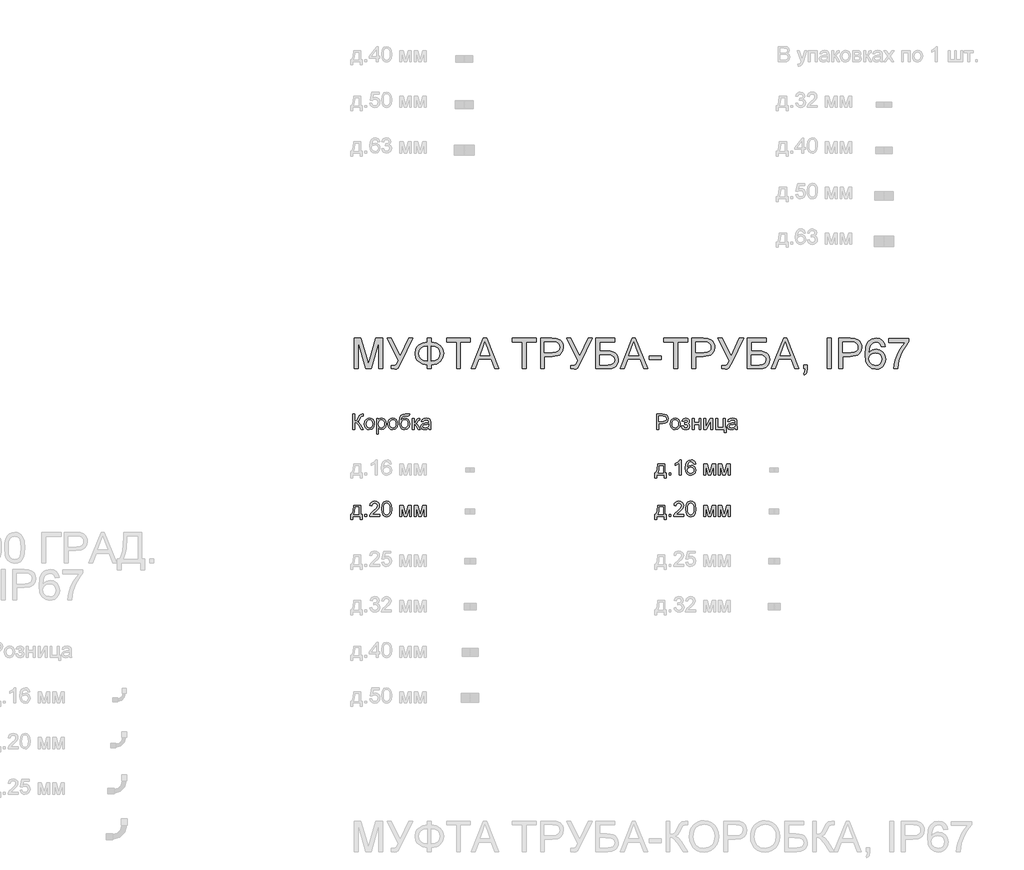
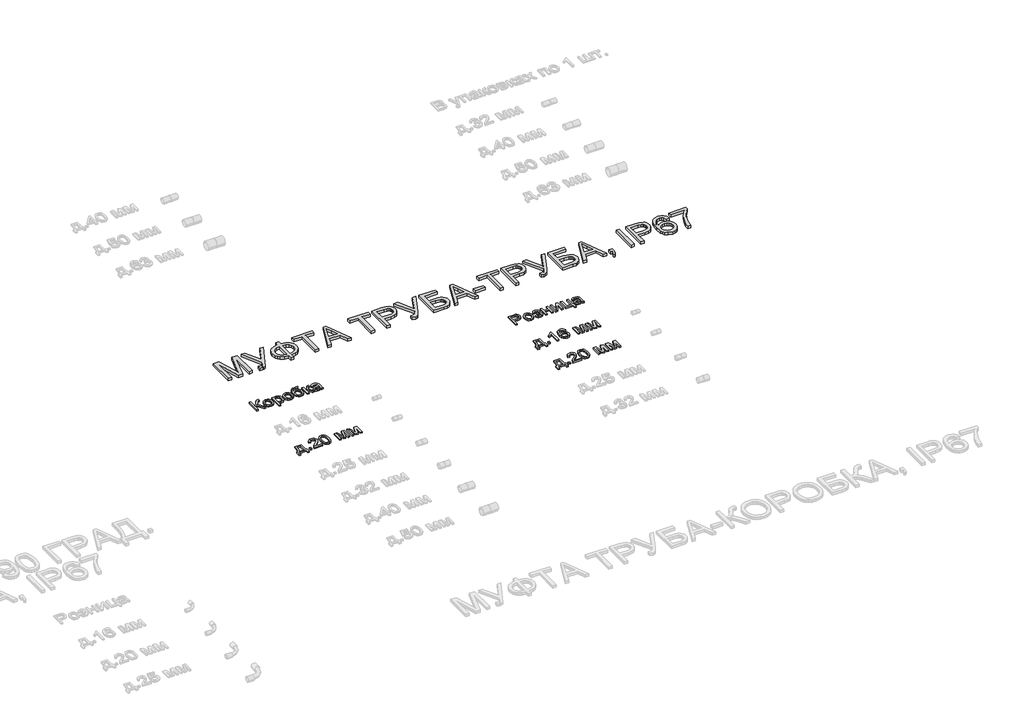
# One storey, part 75 of 98: 6 proxies.
"""IFC4 building model written with IfcOpenShell, lengths in millimetres."""

from ifc_helpers import new_model, si_unit, origin, origin_with_axes, place, context, project, spatial, polyline, outline, extrude, element, save

model = new_model("IFC4")

# Units and contexts
model_context = context("Model", 3, world=origin())
ifc_project = project(units=[si_unit("LENGTHUNIT", "METRE", prefix="MILLI")], contexts=[model_context])

# Site, building, storey
site = spatial("IfcSite", under=ifc_project)
building = spatial("IfcBuilding", under=site)
storey = spatial("IfcBuildingStorey", under=building, Name="Этаж 01", Elevation=0.0)

# Proxies
placement = place(None, origin())
element("IfcBuildingElementProxy", 1, Name="100", ObjectType="100", at=placement, inside=storey, context=model_context, shape_type="SweptSolid", body=[
    extrude(outline(polyline([(8349.7389883, -19159.0558563), (8362.2960271, -19159.0558563), (8362.2960271, -19203.005492), (8376.3368566, -19199.6822913), (8386.1347804, -19182.8700841), (8393.0632246, -19168.8292546), (8400.9113739, -19161.8762849), (8412.1317747, -19159.0558563), (8420.3723314, -19159.2030091), (8420.3723314, -19171.7600479), (8417.6009537, -19171.6864715), (8414.829576, -19171.6128951), (8405.0193895, -19174.6295274), (8397.5636477, -19187.5544482), (8388.6731662, -19203.2997976), (8380.0034138, -19208.4991965), (8389.6971044, -19214.1768419), (8399.2559049, -19226.0103794), (8420.3723314, -19259.5121665), (8405.8042044, -19259.5121665), (8387.9496649, -19231.2097783), (8375.3803634, -19216.4331848), (8362.2960271, -19212.4232711), (8362.2960271, -19259.5121665), (8349.7389883, -19259.5121665), (8349.7389883, -19159.0558563)])), origin_with_axes(), (0.0, 0.0, 1.0), 10.0),
    extrude(outline(polyline([(8426.6508508, -19222.6258651), (8429.3670462, -19204.8387706), (8437.5156324, -19192.3369141), (8447.5833363, -19186.2116789), (8459.637603, -19184.1699338), (8472.8292382, -19186.656203), (8483.3659917, -19194.1150104), (8490.2729762, -19205.957745), (8492.5753043, -19221.5957955), (8488.5040769, -19243.9384953), (8476.6460139, -19256.5813732), (8459.637603, -19261.0817963), (8446.2865523, -19258.6047242), (8435.7620615, -19251.1735079), (8428.9286535, -19239.082453), (8426.6508508, -19222.6258651)]), holes=[polyline([(8439.2078896, -19222.6013396), (8440.6610235, -19233.9658276), (8445.0204251, -19242.0622972), (8451.5809873, -19246.9091424), (8459.637603, -19248.5247575), (8467.6574305, -19246.8999454), (8474.20573, -19242.025509), (8478.5651317, -19233.8217405), (8480.0182656, -19222.2089321), (8478.5559346, -19211.175538), (8474.1689418, -19203.189433), (8467.6114453, -19198.3425877), (8459.637603, -19196.7269726), (8451.5809873, -19198.3364563), (8445.0204251, -19203.1649075), (8440.6610235, -19211.242983), (8439.2078896, -19222.6013396)])]), origin_with_axes(), (0.0, 0.0, 1.0), 10.0),
    extrude(outline(polyline([(8506.701973, -19287.7655037), (8506.701973, -19185.7395637), (8519.2590117, -19185.7395637), (8519.2590117, -19198.0513478), (8527.9410268, -19187.6402873), (8539.6641997, -19184.1699338), (8555.5812274, -19189.0259762), (8565.9800251, -19202.7111864), (8569.4871668, -19222.0617793), (8565.526304, -19242.4056537), (8554.0238603, -19256.2625422), (8538.1436208, -19261.0817963), (8527.2175256, -19257.8566975), (8519.2590117, -19249.7019799), (8519.2590117, -19287.7655037), (8506.701973, -19287.7655037)]), holes=[polyline([(8519.2590117, -19223.2144763), (8520.6171094, -19234.4716653), (8524.6914025, -19242.34434), (8530.7032075, -19246.9796532), (8537.8738407, -19248.5247575), (8545.1609699, -19246.9244709), (8551.326059, -19242.1236108), (8555.5291108, -19233.9627619), (8556.930128, -19222.2825085), (8555.5628333, -19211.0866332), (8551.460949, -19203.1035939), (8545.4583411, -19198.3211279), (8538.3888755, -19196.7269726), (8531.2918186, -19198.4222955), (8525.0592845, -19203.5082641), (8520.7090799, -19211.8254628), (8519.2590117, -19223.2144763)])]), origin_with_axes(), (0.0, 0.0, 1.0), 10.0),
    extrude(outline(polyline([(8580.4745757, -19222.6258651), (8583.1907711, -19204.8387706), (8591.3393573, -19192.3369141), (8601.4070612, -19186.2116789), (8613.461328, -19184.1699338), (8626.6529632, -19186.656203), (8637.1897166, -19194.1150104), (8644.0967011, -19205.957745), (8646.3990293, -19221.5957955), (8642.3278018, -19243.9384953), (8630.4697389, -19256.5813732), (8613.461328, -19261.0817963), (8600.1102772, -19258.6047242), (8589.5857865, -19251.1735079), (8582.7523784, -19239.082453), (8580.4745757, -19222.6258651)]), holes=[polyline([(8593.0316145, -19222.6013396), (8594.4847484, -19233.9658276), (8598.84415, -19242.0622972), (8605.4047123, -19246.9091424), (8613.461328, -19248.5247575), (8621.4811554, -19246.8999454), (8628.029455, -19242.025509), (8632.3888566, -19233.8217405), (8633.8419905, -19222.2089321), (8632.3796596, -19211.175538), (8627.9926668, -19203.189433), (8621.4351702, -19198.3425877), (8613.461328, -19196.7269726), (8605.4047123, -19198.3364563), (8598.84415, -19203.1649075), (8594.4847484, -19211.242983), (8593.0316145, -19222.6013396)])]), origin_with_axes(), (0.0, 0.0, 1.0), 10.0),
    extrude(outline(polyline([(8712.3234828, -19157.4862265), (8723.3108917, -19157.4862265), (8720.0735302, -19167.2841503), (8713.6723834, -19170.8280802), (8698.294916, -19171.6128951), (8677.5831597, -19174.5069001), (8669.6369086, -19183.7775264), (8666.9513701, -19200.1850634), (8677.8284144, -19188.1675849), (8691.8447184, -19184.1699338), (8704.9106606, -19186.7113853), (8715.5117934, -19194.3357396), (8722.5383395, -19206.2949702), (8724.8805216, -19221.8410502), (8720.2329457, -19243.447986), (8709.2087486, -19256.4832714), (8691.8447184, -19261.0817963), (8680.5108873, -19259.6010713), (8672.0158789, -19255.1588962), (8661.16336, -19240.002158), (8657.3864382, -19207.8370089), (8659.7684741, -19183.7438039), (8666.9145819, -19169.0499838), (8679.0025711, -19161.5543882), (8696.2102514, -19159.0558563), (8710.1897672, -19158.7738134), (8712.3234828, -19157.4862265)]), holes=[polyline([(8712.3234828, -19221.4486427), (8710.9623194, -19211.5679454), (8706.8788293, -19203.6554169), (8700.318267, -19198.4590837), (8691.5258873, -19196.7269726), (8682.3594943, -19198.5571855), (8675.5598087, -19204.0478243), (8671.3475599, -19212.598015), (8669.9434769, -19223.6068837), (8671.4947127, -19234.2785273), (8676.1484199, -19242.1113481), (8683.0768642, -19246.9214052), (8691.4523109, -19248.5247575), (8699.8706773, -19246.6700191), (8706.5354727, -19241.105804), (8710.8764803, -19232.4820369), (8712.3234828, -19221.4486427)])]), origin_with_axes(), (0.0, 0.0, 1.0), 10.0),
    extrude(outline(polyline([(8740.57682, -19185.7395637), (8753.1338588, -19185.7395637), (8753.1338588, -19217.1321606), (8761.5460937, -19214.8758177), (8768.4377498, -19201.7301677), (8774.1644462, -19190.3871396), (8779.2166922, -19186.6960569), (8788.4014794, -19185.7395637), (8790.8049751, -19185.7395637), (8790.8049751, -19198.3701789), (8787.4204607, -19198.2966025), (8781.2890942, -19199.6209776), (8776.9726121, -19207.8860598), (8771.9081033, -19216.8255923), (8764.8079808, -19221.203388), (8772.7297064, -19226.0900872), (8780.5042792, -19236.3846517), (8793.9442348, -19259.5121665), (8779.6704134, -19259.5121665), (8766.5002379, -19236.875161), (8759.878362, -19227.2979664), (8753.1338588, -19224.9803098), (8753.1338588, -19259.5121665), (8740.57682, -19259.5121665), (8740.57682, -19185.7395637)])), origin_with_axes(), (0.0, 0.0, 1.0), 10.0),
    extrude(outline(polyline([(8848.8812794, -19250.0943874), (8836.7043854, -19258.6047242), (8823.2521671, -19261.0817963), (8812.7583332, -19259.5918742), (8805.0174828, -19255.122108), (8800.244214, -19248.3346852), (8798.6531243, -19239.8917934), (8801.05662, -19229.9589795), (8807.3719276, -19222.7484924), (8816.1643073, -19218.6282141), (8827.0290889, -19216.7397532), (8848.807703, -19212.4232711), (8848.8812794, -19209.6273679), (8845.4231886, -19200.3567416), (8831.5417747, -19196.7269726), (8818.8375831, -19199.1427311), (8812.7797929, -19207.7143815), (8800.2227542, -19206.1447517), (8805.655145, -19193.8820185), (8816.593503, -19186.6960569), (8833.1604555, -19184.1699338), (8848.3785073, -19186.4017513), (8856.9746833, -19192.0058203), (8860.8251815, -19200.5284199), (8861.4383182, -19211.5158288), (8861.4383182, -19227.1385509), (8862.0759803, -19248.9539532), (8864.5775779, -19259.5121665), (8852.0205391, -19259.5121665), (8848.8812794, -19250.0943874)]), holes=[polyline([(8848.8812794, -19224.9803098), (8828.6232442, -19228.8308081), (8817.8197763, -19230.8664218), (8812.9269457, -19234.1773597), (8811.2101631, -19239.0088766), (8814.9502967, -19245.8024308), (8825.9254429, -19248.5247575), (8838.6296345, -19245.5203879), (8846.8211402, -19238.2485871), (8848.807703, -19228.5365025), (8848.8812794, -19224.9803098)])]), origin_with_axes(), (0.0, 0.0, 1.0), 10.0),
])
element("IfcBuildingElementProxy", 2, Name="100", ObjectType="100", at=placement, inside=storey, context=model_context, shape_type="SweptSolid", body=[
    extrude(outline(polyline([(8356.3281893, -19758.0504054), (8403.4170847, -19758.0504054), (8403.4170847, -19819.2659694), (8412.8348638, -19819.2659694), (8412.8348638, -19852.2281962), (8400.277825, -19852.2281962), (8400.277825, -19831.8230082), (8348.4800401, -19831.8230082), (8348.4800401, -19852.2281962), (8335.9230013, -19852.2281962), (8335.9230013, -19819.2659694), (8343.7711505, -19819.2659694), (8353.4709725, -19795.3168515), (8356.3281893, -19758.0504054)]), holes=[polyline([(8367.3155982, -19770.6074442), (8364.3725423, -19799.2164006), (8357.8978192, -19819.2659694), (8390.8600459, -19819.2659694), (8390.8600459, -19770.6074442), (8367.3155982, -19770.6074442)])]), origin_with_axes(), (0.0, 0.0, 1.0), 10.0),
    extrude(outline(polyline([(8430.1007921, -19831.8230082), (8430.1007921, -19819.2659694), (8442.6578308, -19819.2659694), (8442.6578308, -19831.8230082), (8430.1007921, -19831.8230082)])), origin_with_axes(), (0.0, 0.0, 1.0), 10.0),
    extrude(outline(polyline([(8527.4178425, -19819.2659694), (8527.4178425, -19831.8230082), (8461.493389, -19831.8230082), (8462.8422896, -19823.1655185), (8470.4697097, -19809.8359276), (8486.1905336, -19795.2800633), (8507.8710459, -19774.3598405), (8513.2911739, -19760.13507), (8508.1776142, -19748.6203636), (8494.8234978, -19743.9237368), (8480.9052956, -19748.509999), (8475.6200576, -19761.1896651), (8463.0630188, -19759.6200352), (8466.1072424, -19747.473798), (8472.6892644, -19738.6017106), (8482.4657284, -19733.1754511), (8495.0932779, -19731.366698), (8507.8127979, -19733.3777862), (8517.5708678, -19739.411051), (8523.7788765, -19748.4241598), (8525.8482127, -19759.3747806), (8523.6163953, -19771.2818945), (8516.1974417, -19783.5936786), (8498.2080121, -19800.7982932), (8483.7625124, -19812.8770854), (8478.0971297, -19819.2659694), (8527.4178425, -19819.2659694)])), origin_with_axes(), (0.0, 0.0, 1.0), 10.0),
    extrude(outline(polyline([(8539.9748813, -19782.4041935), (8543.665964, -19753.5009314), (8554.6288474, -19736.835877), (8572.9371081, -19731.366698), (8587.6033369, -19734.6040596), (8597.7323545, -19743.9359995), (8603.6184665, -19758.7984321), (8605.8993348, -19782.4041935), (8602.2450404, -19811.1848282), (8591.3189451, -19827.8866708), (8583.0875855, -19832.0161462), (8572.9371081, -19833.392638), (8559.88956, -19831.001405), (8549.9812716, -19823.8277061), (8542.4764789, -19806.8376893), (8539.9748813, -19782.4041935)]), holes=[polyline([(8552.5319201, -19782.379668), (8554.0034481, -19802.1318655), (8558.418032, -19813.5637985), (8564.990857, -19819.017649), (8572.9371081, -19820.8355992), (8580.8833592, -19819.0115177), (8587.4561841, -19813.539273), (8591.8707681, -19802.1012086), (8593.3422961, -19782.379668), (8591.919819, -19763.0719946), (8587.6523879, -19751.5511568), (8581.0918256, -19745.8305918), (8572.7899553, -19743.9237368), (8564.9295433, -19745.6037312), (8558.6142357, -19750.6437145), (8554.052499, -19762.8819223), (8552.5319201, -19782.379668)])]), origin_with_axes(), (0.0, 0.0, 1.0), 10.0),
    extrude(outline(polyline([(8659.2667496, -19758.0504054), (8680.8736855, -19758.0504054), (8697.5264771, -19817.1077283), (8715.4791185, -19758.0504054), (8736.1786121, -19758.0504054), (8736.1786121, -19831.8230082), (8723.6215733, -19831.8230082), (8723.6215733, -19772.4223287), (8705.5708301, -19831.8230082), (8689.0897167, -19831.8230082), (8671.8237884, -19769.5773746), (8671.8237884, -19831.8230082), (8659.2667496, -19831.8230082), (8659.2667496, -19758.0504054)])), origin_with_axes(), (0.0, 0.0, 1.0), 10.0),
    extrude(outline(polyline([(8755.0141702, -19758.0504054), (8776.6211061, -19758.0504054), (8793.2738977, -19817.1077283), (8811.2265391, -19758.0504054), (8831.9260327, -19758.0504054), (8831.9260327, -19831.8230082), (8819.3689939, -19831.8230082), (8819.3689939, -19772.4223287), (8801.3182507, -19831.8230082), (8784.8371373, -19831.8230082), (8767.571209, -19769.5773746), (8767.571209, -19831.8230082), (8755.0141702, -19831.8230082), (8755.0141702, -19758.0504054)])), origin_with_axes(), (0.0, 0.0, 1.0), 10.0),
])
element("IfcBuildingElementProxy", 3, Name="100", ObjectType="100", at=placement, inside=storey, context=model_context, shape_type="SweptSolid", body=[
    extrude(outline(polyline([(10349.7389883, -19259.5121665), (10349.7389883, -19159.0558563), (10386.9686463, -19159.0558563), (10401.9782317, -19160.0123495), (10414.1796512, -19164.7089763), (10422.0891141, -19174.421061), (10425.081221, -19188.1185339), (10423.0609357, -19199.9582028), (10417.0000798, -19209.8235716), (10405.6662487, -19216.4822358), (10387.8270376, -19218.7017905), (10362.2960271, -19218.7017905), (10362.2960271, -19259.5121665), (10349.7389883, -19259.5121665)]), holes=[polyline([(10362.2960271, -19206.1447517), (10388.5628016, -19206.1447517), (10407.0550032, -19201.533964), (10411.1568874, -19195.9850773), (10412.5241822, -19188.5599923), (10409.2990834, -19178.1611946), (10400.8255347, -19172.4712864), (10388.268496, -19171.6128951), (10362.2960271, -19171.6128951), (10362.2960271, -19206.1447517)])]), origin_with_axes(), (0.0, 0.0, 1.0), 10.0),
    extrude(outline(polyline([(10437.6382597, -19222.6258651), (10440.3544551, -19204.8387706), (10448.5030413, -19192.3369141), (10458.5707453, -19186.2116789), (10470.625012, -19184.1699338), (10483.8166472, -19186.656203), (10494.3534006, -19194.1150104), (10501.2603851, -19205.957745), (10503.5627133, -19221.5957955), (10499.4914858, -19243.9384953), (10487.6334229, -19256.5813732), (10470.625012, -19261.0817963), (10457.2739612, -19258.6047242), (10446.7494705, -19251.1735079), (10439.9160624, -19239.082453), (10437.6382597, -19222.6258651)]), holes=[polyline([(10450.1952985, -19222.6013396), (10451.6484324, -19233.9658276), (10456.007834, -19242.0622972), (10462.5683963, -19246.9091424), (10470.625012, -19248.5247575), (10478.6448395, -19246.8999454), (10485.193139, -19242.025509), (10489.5525406, -19233.8217405), (10491.0056745, -19222.2089321), (10489.5433436, -19211.175538), (10485.1563508, -19203.189433), (10478.5988542, -19198.3425877), (10470.625012, -19196.7269726), (10462.5683963, -19198.3364563), (10456.007834, -19203.1649075), (10451.6484324, -19211.242983), (10450.1952985, -19222.6013396)])]), origin_with_axes(), (0.0, 0.0, 1.0), 10.0),
    extrude(outline(polyline([(10534.9553102, -19226.5499397), (10534.9553102, -19213.9929009), (10544.8635986, -19213.5023916), (10549.8667937, -19210.8904294), (10552.2212385, -19205.4335132), (10549.0697161, -19199.0936801), (10540.939524, -19196.7269726), (10532.5395517, -19199.0814174), (10527.107161, -19206.1447517), (10512.9804923, -19204.5751218), (10522.4227969, -19189.2712308), (10539.6641997, -19184.1699338), (10550.1610993, -19185.7242353), (10558.1073504, -19190.3871396), (10563.1105455, -19197.2082849), (10564.7782773, -19205.2373094), (10562.4054384, -19213.0364077), (10555.2869218, -19219.0696725), (10563.5887921, -19226.8932962), (10566.3479071, -19238.1504853), (10564.5974019, -19247.3935204), (10559.3458865, -19254.7174378), (10550.9489799, -19259.4907067), (10539.7623016, -19261.0817963), (10528.8208779, -19259.6102683), (10520.4484968, -19255.1956844), (10514.6451584, -19247.8380445), (10511.4108625, -19237.5373486), (10525.5375311, -19235.9677188), (10531.2029138, -19245.238345), (10540.9640494, -19248.5247575), (10550.1365738, -19245.3732351), (10553.7908683, -19237.3166194), (10551.5222627, -19230.719269), (10546.6907458, -19227.1876018), (10537.4078568, -19226.4763633), (10534.9553102, -19226.5499397)])), origin_with_axes(), (0.0, 0.0, 1.0), 10.0),
    extrude(outline(polyline([(10582.0442056, -19185.7395637), (10594.6012443, -19185.7395637), (10594.6012443, -19213.9929009), (10627.5634711, -19213.9929009), (10627.5634711, -19185.7395637), (10640.1205099, -19185.7395637), (10640.1205099, -19259.5121665), (10627.5634711, -19259.5121665), (10627.5634711, -19226.5499397), (10594.6012443, -19226.5499397), (10594.6012443, -19259.5121665), (10582.0442056, -19259.5121665), (10582.0442056, -19185.7395637)])), origin_with_axes(), (0.0, 0.0, 1.0), 10.0),
    extrude(outline(polyline([(10658.956068, -19185.7395637), (10671.5131068, -19185.7395637), (10671.5131068, -19242.0009835), (10702.3661435, -19185.7395637), (10718.6020022, -19185.7395637), (10718.6020022, -19259.5121665), (10706.0449634, -19259.5121665), (10706.0449634, -19203.5941032), (10675.3881305, -19259.5121665), (10658.956068, -19259.5121665), (10658.956068, -19185.7395637)])), origin_with_axes(), (0.0, 0.0, 1.0), 10.0),
    extrude(outline(polyline([(10737.4375603, -19185.7395637), (10749.9945991, -19185.7395637), (10749.9945991, -19246.9551277), (10786.0960856, -19246.9551277), (10786.0960856, -19185.7395637), (10798.6531243, -19185.7395637), (10798.6531243, -19246.9551277), (10806.5012736, -19246.9551277), (10806.5012736, -19279.9173545), (10793.9442348, -19279.9173545), (10793.9442348, -19259.5121665), (10737.4375603, -19259.5121665), (10737.4375603, -19185.7395637)])), origin_with_axes(), (0.0, 0.0, 1.0), 10.0),
    extrude(outline(polyline([(10864.5775779, -19250.0943874), (10852.4006838, -19258.6047242), (10838.9484655, -19261.0817963), (10828.4546316, -19259.5918742), (10820.7137813, -19255.122108), (10815.9405124, -19248.3346852), (10814.3494228, -19239.8917934), (10816.7529185, -19229.9589795), (10823.0682261, -19222.7484924), (10831.8606058, -19218.6282141), (10842.7253873, -19216.7397532), (10864.5040015, -19212.4232711), (10864.5775779, -19209.6273679), (10861.1194871, -19200.3567416), (10847.2380732, -19196.7269726), (10834.5338816, -19199.1427311), (10828.4760914, -19207.7143815), (10815.9190526, -19206.1447517), (10821.3514434, -19193.8820185), (10832.2898014, -19186.6960569), (10848.8567539, -19184.1699338), (10864.0748058, -19186.4017513), (10872.6709818, -19192.0058203), (10876.52148, -19200.5284199), (10877.1346166, -19211.5158288), (10877.1346166, -19227.1385509), (10877.7722788, -19248.9539532), (10880.2738763, -19259.5121665), (10867.7168376, -19259.5121665), (10864.5775779, -19250.0943874)]), holes=[polyline([(10864.5775779, -19224.9803098), (10844.3195427, -19228.8308081), (10833.5160747, -19230.8664218), (10828.6232442, -19234.1773597), (10826.9064616, -19239.0088766), (10830.6465952, -19245.8024308), (10841.6217414, -19248.5247575), (10854.3259329, -19245.5203879), (10862.5174387, -19238.2485871), (10864.5040015, -19228.5365025), (10864.5775779, -19224.9803098)])]), origin_with_axes(), (0.0, 0.0, 1.0), 10.0),
])
element("IfcBuildingElementProxy", 4, Name="100", ObjectType="100", at=placement, inside=storey, context=model_context, shape_type="SweptSolid", body=[
    extrude(outline(polyline([(10356.3281893, -19485.7395637), (10403.4170847, -19485.7395637), (10403.4170847, -19546.9551277), (10412.8348638, -19546.9551277), (10412.8348638, -19579.9173545), (10400.277825, -19579.9173545), (10400.277825, -19559.5121665), (10348.4800401, -19559.5121665), (10348.4800401, -19579.9173545), (10335.9230013, -19579.9173545), (10335.9230013, -19546.9551277), (10343.7711505, -19546.9551277), (10353.4709725, -19523.0060098), (10356.3281893, -19485.7395637)]), holes=[polyline([(10367.3155982, -19498.2966025), (10364.3725423, -19526.905559), (10357.8978192, -19546.9551277), (10390.8600459, -19546.9551277), (10390.8600459, -19498.2966025), (10367.3155982, -19498.2966025)])]), origin_with_axes(), (0.0, 0.0, 1.0), 10.0),
    extrude(outline(polyline([(10430.1007921, -19559.5121665), (10430.1007921, -19546.9551277), (10442.6578308, -19546.9551277), (10442.6578308, -19559.5121665), (10430.1007921, -19559.5121665)])), origin_with_axes(), (0.0, 0.0, 1.0), 10.0),
    extrude(outline(polyline([(10510.1519142, -19559.5121665), (10497.5948755, -19559.5121665), (10497.5948755, -19481.2268779), (10485.7000243, -19489.7004265), (10472.4807979, -19496.0402596), (10472.4807979, -19484.1699338), (10490.8871604, -19472.4222355), (10502.0585103, -19459.0558563), (10510.1519142, -19459.0558563), (10510.1519142, -19559.5121665)])), origin_with_axes(), (0.0, 0.0, 1.0), 10.0),
    extrude(outline(polyline([(10604.329705, -19485.7395637), (10591.7726662, -19487.3091935), (10587.0147258, -19476.8368194), (10574.4331615, -19471.6128951), (10563.1023961, -19474.6540529), (10554.5307456, -19486.0706575), (10550.9622902, -19508.4501455), (10562.0355383, -19498.4314925), (10575.7575367, -19495.1573428), (10587.3580823, -19497.3952916), (10597.0946924, -19504.109138), (10603.6981742, -19514.3669143), (10605.8993348, -19527.2366527), (10601.754531, -19544.5638947), (10590.3501892, -19556.8266279), (10573.8936013, -19561.0817963), (10559.647371, -19558.2613677), (10548.3012771, -19549.8000818), (10540.8792579, -19534.8640728), (10538.4052515, -19512.6194748), (10541.1521037, -19487.6096305), (10549.3926604, -19470.5092491), (10560.6437181, -19461.9192045), (10575.2179764, -19459.0558563), (10586.2360422, -19460.8278213), (10595.0590787, -19466.1437161), (10601.2394962, -19474.5866079), (10604.329705, -19485.7395637)]), holes=[polyline([(10550.9622902, -19527.040449), (10553.868558, -19537.9174933), (10561.5940799, -19545.8146935), (10572.9125826, -19548.5247575), (10581.1991245, -19547.1206746), (10587.7137015, -19542.9084257), (10591.9351474, -19536.2865498), (10593.3422961, -19527.6535857), (10591.9535415, -19519.3670437), (10587.7872779, -19513.0486705), (10581.1623363, -19509.0479538), (10572.3975478, -19507.7143815), (10557.2040214, -19513.0486705), (10552.522723, -19519.2137596), (10550.9622902, -19527.040449)])]), origin_with_axes(), (0.0, 0.0, 1.0), 10.0),
    extrude(outline(polyline([(10659.2667496, -19485.7395637), (10680.8736855, -19485.7395637), (10697.5264771, -19544.7968867), (10715.4791185, -19485.7395637), (10736.1786121, -19485.7395637), (10736.1786121, -19559.5121665), (10723.6215733, -19559.5121665), (10723.6215733, -19500.111487), (10705.5708301, -19559.5121665), (10689.0897167, -19559.5121665), (10671.8237884, -19497.2665329), (10671.8237884, -19559.5121665), (10659.2667496, -19559.5121665), (10659.2667496, -19485.7395637)])), origin_with_axes(), (0.0, 0.0, 1.0), 10.0),
    extrude(outline(polyline([(10755.0141702, -19485.7395637), (10776.6211061, -19485.7395637), (10793.2738977, -19544.7968867), (10811.2265391, -19485.7395637), (10831.9260327, -19485.7395637), (10831.9260327, -19559.5121665), (10819.3689939, -19559.5121665), (10819.3689939, -19500.111487), (10801.3182507, -19559.5121665), (10784.8371373, -19559.5121665), (10767.571209, -19497.2665329), (10767.571209, -19559.5121665), (10755.0141702, -19559.5121665), (10755.0141702, -19485.7395637)])), origin_with_axes(), (0.0, 0.0, 1.0), 10.0),
])
element("IfcBuildingElementProxy", 5, Name="100", ObjectType="100", at=placement, inside=storey, context=model_context, shape_type="SweptSolid", body=[
    extrude(outline(polyline([(10356.3281893, -19758.0504054), (10403.4170847, -19758.0504054), (10403.4170847, -19819.2659694), (10412.8348638, -19819.2659694), (10412.8348638, -19852.2281962), (10400.277825, -19852.2281962), (10400.277825, -19831.8230082), (10348.4800401, -19831.8230082), (10348.4800401, -19852.2281962), (10335.9230013, -19852.2281962), (10335.9230013, -19819.2659694), (10343.7711505, -19819.2659694), (10353.4709725, -19795.3168515), (10356.3281893, -19758.0504054)]), holes=[polyline([(10367.3155982, -19770.6074442), (10364.3725423, -19799.2164006), (10357.8978192, -19819.2659694), (10390.8600459, -19819.2659694), (10390.8600459, -19770.6074442), (10367.3155982, -19770.6074442)])]), origin_with_axes(), (0.0, 0.0, 1.0), 10.0),
    extrude(outline(polyline([(10430.1007921, -19831.8230082), (10430.1007921, -19819.2659694), (10442.6578308, -19819.2659694), (10442.6578308, -19831.8230082), (10430.1007921, -19831.8230082)])), origin_with_axes(), (0.0, 0.0, 1.0), 10.0),
    extrude(outline(polyline([(10527.4178425, -19819.2659694), (10527.4178425, -19831.8230082), (10461.493389, -19831.8230082), (10462.8422896, -19823.1655185), (10470.4697097, -19809.8359276), (10486.1905336, -19795.2800633), (10507.8710459, -19774.3598405), (10513.2911739, -19760.13507), (10508.1776142, -19748.6203636), (10494.8234978, -19743.9237368), (10480.9052956, -19748.509999), (10475.6200576, -19761.1896651), (10463.0630188, -19759.6200352), (10466.1072424, -19747.473798), (10472.6892644, -19738.6017106), (10482.4657284, -19733.1754511), (10495.0932779, -19731.366698), (10507.8127979, -19733.3777862), (10517.5708678, -19739.411051), (10523.7788765, -19748.4241598), (10525.8482127, -19759.3747806), (10523.6163953, -19771.2818945), (10516.1974417, -19783.5936786), (10498.2080121, -19800.7982932), (10483.7625124, -19812.8770854), (10478.0971297, -19819.2659694), (10527.4178425, -19819.2659694)])), origin_with_axes(), (0.0, 0.0, 1.0), 10.0),
    extrude(outline(polyline([(10539.9748813, -19782.4041935), (10543.665964, -19753.5009314), (10554.6288474, -19736.835877), (10572.9371081, -19731.366698), (10587.6033369, -19734.6040596), (10597.7323545, -19743.9359995), (10603.6184665, -19758.7984321), (10605.8993348, -19782.4041935), (10602.2450404, -19811.1848282), (10591.3189451, -19827.8866708), (10583.0875855, -19832.0161462), (10572.9371081, -19833.392638), (10559.88956, -19831.001405), (10549.9812716, -19823.8277061), (10542.4764789, -19806.8376893), (10539.9748813, -19782.4041935)]), holes=[polyline([(10552.5319201, -19782.379668), (10554.0034481, -19802.1318655), (10558.418032, -19813.5637985), (10564.990857, -19819.017649), (10572.9371081, -19820.8355992), (10580.8833592, -19819.0115177), (10587.4561841, -19813.539273), (10591.8707681, -19802.1012086), (10593.3422961, -19782.379668), (10591.919819, -19763.0719946), (10587.6523879, -19751.5511568), (10581.0918256, -19745.8305918), (10572.7899553, -19743.9237368), (10564.9295433, -19745.6037312), (10558.6142357, -19750.6437145), (10554.052499, -19762.8819223), (10552.5319201, -19782.379668)])]), origin_with_axes(), (0.0, 0.0, 1.0), 10.0),
    extrude(outline(polyline([(10659.2667496, -19758.0504054), (10680.8736855, -19758.0504054), (10697.5264771, -19817.1077283), (10715.4791185, -19758.0504054), (10736.1786121, -19758.0504054), (10736.1786121, -19831.8230082), (10723.6215733, -19831.8230082), (10723.6215733, -19772.4223287), (10705.5708301, -19831.8230082), (10689.0897167, -19831.8230082), (10671.8237884, -19769.5773746), (10671.8237884, -19831.8230082), (10659.2667496, -19831.8230082), (10659.2667496, -19758.0504054)])), origin_with_axes(), (0.0, 0.0, 1.0), 10.0),
    extrude(outline(polyline([(10755.0141702, -19758.0504054), (10776.6211061, -19758.0504054), (10793.2738977, -19817.1077283), (10811.2265391, -19758.0504054), (10831.9260327, -19758.0504054), (10831.9260327, -19831.8230082), (10819.3689939, -19831.8230082), (10819.3689939, -19772.4223287), (10801.3182507, -19831.8230082), (10784.8371373, -19831.8230082), (10767.571209, -19769.5773746), (10767.571209, -19831.8230082), (10755.0141702, -19831.8230082), (10755.0141702, -19758.0504054)])), origin_with_axes(), (0.0, 0.0, 1.0), 10.0),
])
element("IfcBuildingElementProxy", 6, Name="200", ObjectType="200", at=placement, inside=storey, context=model_context, shape_type="SweptSolid", body=[
    extrude(outline(polyline([(8360.7263973, -18859.5121665), (8360.7263973, -18658.5995462), (8403.940269, -18658.5995462), (8445.0449506, -18800.2095888), (8453.3345582, -18829.7873012), (8462.3108789, -18797.7570422), (8502.7288474, -18658.5995462), (8545.9427191, -18658.5995462), (8545.9427191, -18859.5121665), (8520.8286416, -18859.5121665), (8520.8286416, -18683.7136237), (8470.3552318, -18859.5121665), (8436.3138845, -18859.5121665), (8385.8404748, -18683.7136237), (8385.8404748, -18859.5121665), (8360.7263973, -18859.5121665)])), origin_with_axes(), (0.0, 0.0, 1.0), 20.0),
    extrude(outline(polyline([(8575.7656862, -18658.5995462), (8603.577565, -18658.5995462), (8663.6649576, -18777.5971089), (8717.7190854, -18658.5995462), (8745.2857096, -18658.5995462), (8669.0115092, -18815.1210724), (8648.2629647, -18853.5770036), (8638.41599, -18860.3828205), (8625.0618735, -18862.6514262), (8602.4493936, -18859.5121665), (8602.4493936, -18837.5373486), (8622.2169194, -18837.5373486), (8636.8831483, -18831.9455423), (8650.4702567, -18806.4881082), (8575.7656862, -18658.5995462)])), origin_with_axes(), (0.0, 0.0, 1.0), 20.0),
    extrude(outline(polyline([(8841.0331302, -18683.7136237), (8841.0331302, -18658.5995462), (8866.1472077, -18658.5995462), (8866.1472077, -18683.7136237), (8899.9862199, -18690.5071779), (8925.8667183, -18706.7675621), (8942.2926493, -18730.3242725), (8947.7679597, -18759.0068054), (8942.4643276, -18787.2233544), (8926.5534313, -18810.8536412), (8914.8225942, -18820.3266026), (8900.8446112, -18827.408331), (8866.1472077, -18834.3980889), (8866.1472077, -18859.5121665), (8841.0331302, -18859.5121665), (8841.0331302, -18834.3980889), (8808.9415575, -18828.2851164), (8782.7115712, -18812.6930512), (8772.5181743, -18801.7133065), (8765.2371764, -18789.1056839), (8759.4123782, -18759.0068054), (8765.2187823, -18728.8159563), (8772.4767875, -18716.2405234), (8782.6379948, -18705.345085), (8808.849587, -18689.8817785), (8841.0331302, -18683.7136237)]), holes=[polyline([(8841.0331302, -18708.8277012), (8818.1815269, -18712.8498777), (8800.1491778, -18722.856268), (8788.4321362, -18738.4054136), (8784.5264557, -18759.0558563), (8788.3830853, -18779.5530148), (8799.952974, -18795.1328173), (8817.9362722, -18805.2311781), (8841.0331302, -18809.2840114), (8841.0331302, -18708.8277012)]), polyline([(8866.1472077, -18708.8277012), (8866.1472077, -18809.2840114), (8889.6426045, -18805.1330762), (8907.5461949, -18795.0347154), (8918.8769603, -18779.5039639), (8922.6538822, -18759.0558563), (8918.9444054, -18738.8836602), (8907.815975, -18723.3958282), (8889.9798296, -18713.1809715), (8866.1472077, -18708.8277012)])]), origin_with_axes(), (0.0, 0.0, 1.0), 20.0),
    extrude(outline(polyline([(9032.5279714, -18859.5121665), (9032.5279714, -18683.7136237), (8966.6035179, -18683.7136237), (8966.6035179, -18658.5995462), (9123.5665025, -18658.5995462), (9123.5665025, -18683.7136237), (9057.6420489, -18683.7136237), (9057.6420489, -18859.5121665), (9032.5279714, -18859.5121665)])), origin_with_axes(), (0.0, 0.0, 1.0), 20.0),
    extrude(outline(polyline([(9128.4225448, -18859.5121665), (9208.6208198, -18658.5995462), (9230.0070264, -18658.5995462), (9310.2053014, -18859.5121665), (9283.6687468, -18859.5121665), (9260.6638593, -18796.7269726), (9177.9149359, -18796.7269726), (9154.9590994, -18859.5121665), (9128.4225448, -18859.5121665)]), holes=[polyline([(9187.1365112, -18771.6128951), (9251.4913349, -18771.6128951), (9233.3915408, -18722.2186059), (9219.3139231, -18683.7136237), (9206.8059352, -18717.9021238), (9187.1365112, -18771.6128951)])]), origin_with_axes(), (0.0, 0.0, 1.0), 20.0),
    extrude(outline(polyline([(9465.7458089, -18859.5121665), (9465.7458089, -18683.7136237), (9399.8213554, -18683.7136237), (9399.8213554, -18658.5995462), (9556.78434, -18658.5995462), (9556.78434, -18683.7136237), (9490.8598864, -18683.7136237), (9490.8598864, -18859.5121665), (9465.7458089, -18859.5121665)])), origin_with_axes(), (0.0, 0.0, 1.0), 20.0),
    extrude(outline(polyline([(9585.0376772, -18859.5121665), (9585.0376772, -18658.5995462), (9659.496993, -18658.5995462), (9689.5161638, -18660.5125325), (9713.9190029, -18669.9057861), (9722.7910903, -18678.232182), (9729.7379287, -18689.3299555), (9734.226089, -18702.4204232), (9735.7221424, -18716.7249014), (9731.6815719, -18740.4042392), (9719.5598601, -18760.1349768), (9709.852374, -18767.9034183), (9696.8921978, -18773.4523051), (9661.2137757, -18777.8914145), (9610.1517548, -18777.8914145), (9610.1517548, -18859.5121665), (9585.0376772, -18859.5121665)]), holes=[polyline([(9610.1517548, -18752.7773369), (9662.6853037, -18752.7773369), (9684.9544271, -18750.4719431), (9699.6697069, -18743.5557616), (9707.8734754, -18732.4579881), (9710.6080649, -18717.6078182), (9708.9955155, -18706.3261037), (9704.1578673, -18696.8102227), (9696.6959941, -18689.6487866), (9687.21077, -18685.4304063), (9662.0966925, -18683.7136237), (9610.1517548, -18683.7136237), (9610.1517548, -18752.7773369)])]), origin_with_axes(), (0.0, 0.0, 1.0), 20.0),
    extrude(outline(polyline([(9756.1273304, -18658.5995462), (9783.9392093, -18658.5995462), (9844.0266018, -18777.5971089), (9898.0807296, -18658.5995462), (9925.6473538, -18658.5995462), (9849.3731535, -18815.1210724), (9828.624609, -18853.5770036), (9818.7776342, -18860.3828205), (9805.4235178, -18862.6514262), (9782.8110378, -18859.5121665), (9782.8110378, -18837.5373486), (9802.5785637, -18837.5373486), (9817.2447926, -18831.9455423), (9830.8319009, -18806.4881082), (9756.1273304, -18658.5995462)])), origin_with_axes(), (0.0, 0.0, 1.0), 20.0),
    extrude(outline(polyline([(9949.1918015, -18658.5995462), (10074.7621892, -18658.5995462), (10074.7621892, -18683.7136237), (9974.305879, -18683.7136237), (9974.305879, -18743.3595578), (10021.3457235, -18743.3595578), (10044.7307557, -18744.6348821), (10062.7937616, -18748.4608548), (10076.6629128, -18755.8307575), (10087.4663808, -18767.7378714), (10094.4193505, -18783.0662879), (10096.737007, -18800.7000982), (10095.0876694, -18815.5073485), (10090.1396566, -18829.3213174), (10081.917494, -18841.4185037), (10070.4457071, -18851.075406), (10052.7505831, -18857.4029764), (10025.8584093, -18859.5121665), (9949.1918015, -18859.5121665), (9949.1918015, -18658.5995462)]), holes=[polyline([(9974.305879, -18834.3980889), (10028.1147522, -18834.3980889), (10047.1342514, -18832.325687), (10060.7336224, -18826.1084813), (10068.9006027, -18815.7464718), (10071.6229295, -18801.2396584), (10070.0655624, -18790.4361905), (10065.3934611, -18781.5702344), (10057.9438506, -18774.9974094), (10048.0539563, -18771.0733348), (10010.2111618, -18768.4736354), (9974.305879, -18768.4736354), (9974.305879, -18834.3980889)])]), origin_with_axes(), (0.0, 0.0, 1.0), 20.0),
    extrude(outline(polyline([(10107.8715688, -18859.5121665), (10188.0698437, -18658.5995462), (10209.4560504, -18658.5995462), (10289.6543253, -18859.5121665), (10263.1177707, -18859.5121665), (10240.1128833, -18796.7269726), (10157.3639598, -18796.7269726), (10134.4081233, -18859.5121665), (10107.8715688, -18859.5121665)]), holes=[polyline([(10166.5855352, -18771.6128951), (10230.9403589, -18771.6128951), (10212.8405647, -18722.2186059), (10198.762947, -18683.7136237), (10186.2549592, -18717.9021238), (10166.5855352, -18771.6128951)])]), origin_with_axes(), (0.0, 0.0, 1.0), 20.0),
    extrude(outline(polyline([(10300.788887, -18799.8662323), (10300.788887, -18774.7521548), (10379.2703793, -18774.7521548), (10379.2703793, -18799.8662323), (10300.788887, -18799.8662323)])), origin_with_axes(), (0.0, 0.0, 1.0), 20.0),
    extrude(outline(polyline([(10460.8911313, -18859.5121665), (10460.8911313, -18683.7136237), (10394.9666778, -18683.7136237), (10394.9666778, -18658.5995462), (10551.9296624, -18658.5995462), (10551.9296624, -18683.7136237), (10486.0052089, -18683.7136237), (10486.0052089, -18859.5121665), (10460.8911313, -18859.5121665)])), origin_with_axes(), (0.0, 0.0, 1.0), 20.0),
    extrude(outline(polyline([(10580.1829996, -18859.5121665), (10580.1829996, -18658.5995462), (10654.6423155, -18658.5995462), (10684.6614863, -18660.5125325), (10709.0643253, -18669.9057861), (10717.9364127, -18678.232182), (10724.8832511, -18689.3299555), (10729.3714114, -18702.4204232), (10730.8674649, -18716.7249014), (10726.8268943, -18740.4042392), (10714.7051825, -18760.1349768), (10704.9976964, -18767.9034183), (10692.0375203, -18773.4523051), (10656.3590981, -18777.8914145), (10605.2970772, -18777.8914145), (10605.2970772, -18859.5121665), (10580.1829996, -18859.5121665)]), holes=[polyline([(10605.2970772, -18752.7773369), (10657.8306261, -18752.7773369), (10680.0997495, -18750.4719431), (10694.8150293, -18743.5557616), (10703.0187978, -18732.4579881), (10705.7533873, -18717.6078182), (10704.1408379, -18706.3261037), (10699.3031897, -18696.8102227), (10691.8413165, -18689.6487866), (10682.3560924, -18685.4304063), (10657.2420149, -18683.7136237), (10605.2970772, -18683.7136237), (10605.2970772, -18752.7773369)])]), origin_with_axes(), (0.0, 0.0, 1.0), 20.0),
    extrude(outline(polyline([(10751.2726529, -18658.5995462), (10779.0845317, -18658.5995462), (10839.1719242, -18777.5971089), (10893.2260521, -18658.5995462), (10920.7926762, -18658.5995462), (10844.5184759, -18815.1210724), (10823.7699314, -18853.5770036), (10813.9229566, -18860.3828205), (10800.5688402, -18862.6514262), (10777.9563602, -18859.5121665), (10777.9563602, -18837.5373486), (10797.7238861, -18837.5373486), (10812.390115, -18831.9455423), (10825.9772233, -18806.4881082), (10751.2726529, -18658.5995462)])), origin_with_axes(), (0.0, 0.0, 1.0), 20.0),
    extrude(outline(polyline([(10944.3371239, -18658.5995462), (11069.9075116, -18658.5995462), (11069.9075116, -18683.7136237), (10969.4512015, -18683.7136237), (10969.4512015, -18743.3595578), (11016.4910459, -18743.3595578), (11039.8760781, -18744.6348821), (11057.939084, -18748.4608548), (11071.8082353, -18755.8307575), (11082.6117032, -18767.7378714), (11089.5646729, -18783.0662879), (11091.8823295, -18800.7000982), (11090.2329918, -18815.5073485), (11085.284979, -18829.3213174), (11077.0628164, -18841.4185037), (11065.5910295, -18851.075406), (11047.8959056, -18857.4029764), (11021.0037317, -18859.5121665), (10944.3371239, -18859.5121665), (10944.3371239, -18658.5995462)]), holes=[polyline([(10969.4512015, -18834.3980889), (11023.2600746, -18834.3980889), (11042.2795738, -18832.325687), (11055.8789449, -18826.1084813), (11064.0459252, -18815.7464718), (11066.7682519, -18801.2396584), (11065.2108848, -18790.4361905), (11060.5387835, -18781.5702344), (11053.0891731, -18774.9974094), (11043.1992788, -18771.0733348), (11005.3564842, -18768.4736354), (10969.4512015, -18768.4736354), (10969.4512015, -18834.3980889)])]), origin_with_axes(), (0.0, 0.0, 1.0), 20.0),
    extrude(outline(polyline([(11103.0168912, -18859.5121665), (11183.2151661, -18658.5995462), (11204.6013728, -18658.5995462), (11284.7996477, -18859.5121665), (11258.2630931, -18859.5121665), (11235.2582057, -18796.7269726), (11152.5092823, -18796.7269726), (11129.5534458, -18859.5121665), (11103.0168912, -18859.5121665)]), holes=[polyline([(11161.7308576, -18771.6128951), (11226.0856813, -18771.6128951), (11207.9858871, -18722.2186059), (11193.9082695, -18683.7136237), (11181.4002816, -18717.9021238), (11161.7308576, -18771.6128951)])]), origin_with_axes(), (0.0, 0.0, 1.0), 20.0),
    extrude(outline(polyline([(11314.7697676, -18859.5121665), (11314.7697676, -18834.3980889), (11339.8838451, -18834.3980889), (11339.8838451, -18859.5121665), (11335.3711593, -18885.1903297), (11329.5340983, -18893.8662134), (11321.048287, -18900.3225425), (11314.7697676, -18890.9047634), (11323.9913429, -18880.0645073), (11327.2777554, -18859.5121665), (11314.7697676, -18859.5121665)])), origin_with_axes(), (0.0, 0.0, 1.0), 20.0),
    extrude(outline(polyline([(11471.7327522, -18859.5121665), (11471.7327522, -18658.5995462), (11496.8468297, -18658.5995462), (11496.8468297, -18859.5121665), (11471.7327522, -18859.5121665)])), origin_with_axes(), (0.0, 0.0, 1.0), 20.0),
    extrude(outline(polyline([(11547.0749848, -18859.5121665), (11547.0749848, -18658.5995462), (11621.5343006, -18658.5995462), (11651.5534715, -18660.5125325), (11675.9563105, -18669.9057861), (11684.8283979, -18678.232182), (11691.7752363, -18689.3299555), (11696.2633966, -18702.4204232), (11697.75945, -18716.7249014), (11693.7188795, -18740.4042392), (11681.5971677, -18760.1349768), (11671.8896816, -18767.9034183), (11658.9295055, -18773.4523051), (11623.2510833, -18777.8914145), (11572.1890624, -18777.8914145), (11572.1890624, -18859.5121665), (11547.0749848, -18859.5121665)]), holes=[polyline([(11572.1890624, -18752.7773369), (11624.7226113, -18752.7773369), (11646.9917347, -18750.4719431), (11661.7070145, -18743.5557616), (11669.910783, -18732.4579881), (11672.6453725, -18717.6078182), (11671.0328231, -18706.3261037), (11666.1951749, -18696.8102227), (11658.7333017, -18689.6487866), (11649.2480776, -18685.4304063), (11624.1340001, -18683.7136237), (11572.1890624, -18683.7136237), (11572.1890624, -18752.7773369)])]), origin_with_axes(), (0.0, 0.0, 1.0), 20.0),
    extrude(outline(polyline([(11851.583175, -18711.9669609), (11826.4690974, -18715.1062206), (11816.9532165, -18694.1614724), (11805.5611374, -18686.3255859), (11791.790088, -18683.7136237), (11769.1285571, -18689.7959394), (11759.6923839, -18699.4037908), (11751.9852561, -18712.6291485), (11746.7797259, -18731.335948), (11744.8483454, -18757.3881246), (11754.9221807, -18745.6342949), (11766.9948415, -18737.3508186), (11780.3918775, -18732.439594), (11794.4388384, -18730.8025191), (11817.6399295, -18735.2784167), (11837.1131498, -18748.7061095), (11850.3201134, -18769.2216621), (11854.7224347, -18794.961139), (11852.6500328, -18812.9444372), (11846.432827, -18829.615623), (11836.5858523, -18843.7545543), (11823.6241433, -18854.1410893), (11808.1363113, -18860.5238419), (11790.7109675, -18862.6514262), (11762.218507, -18857.0105689), (11739.5263192, -18840.0879971), (11730.8672968, -18826.9791354), (11724.6822807, -18810.2159791), (11719.7342679, -18765.7267832), (11725.2279724, -18715.7070945), (11732.0951029, -18696.6293474), (11741.7090857, -18681.5063317), (11752.1293433, -18671.484613), (11764.2112011, -18664.3262426), (11793.3597179, -18658.5995462), (11815.3958494, -18662.143476), (11833.0419224, -18672.7752657), (11845.4027574, -18689.6610493), (11851.583175, -18711.9669609)]), holes=[polyline([(11744.8483454, -18794.5687316), (11750.660881, -18816.3228202), (11766.1119248, -18832.1172206), (11788.7489302, -18837.5373486), (11805.3220141, -18834.7291827), (11818.3511681, -18826.304685), (11826.7940599, -18813.0609332), (11829.6083571, -18795.7950049), (11826.8308481, -18779.221921), (11818.4983209, -18766.5851745), (11805.2484377, -18758.5837411), (11787.7188606, -18755.9165966), (11771.1703022, -18758.5837411), (11757.3318078, -18766.5851745), (11747.969211, -18778.9153527), (11744.8483454, -18794.5687316)])]), origin_with_axes(), (0.0, 0.0, 1.0), 20.0),
    extrude(outline(polyline([(11876.6972525, -18686.8528834), (11876.6972525, -18661.7388059), (12008.5461596, -18661.7388059), (12008.5461596, -18682.045892), (11989.753521, -18705.829463), (11971.1448234, -18736.0754943), (11954.731155, -18770.0248711), (11942.5236042, -18804.9184784), (11933.203927, -18859.5121665), (11908.0898494, -18859.5121665), (11910.8060448, -18833.6255367), (11918.0717142, -18802.8583392), (11929.6906539, -18770.2456003), (11945.4666601, -18738.8223466), (11963.8852854, -18710.4157252), (11983.432082, -18686.8528834), (11876.6972525, -18686.8528834)])), origin_with_axes(), (0.0, 0.0, 1.0), 20.0),
])

save(model, "model.ifc")
